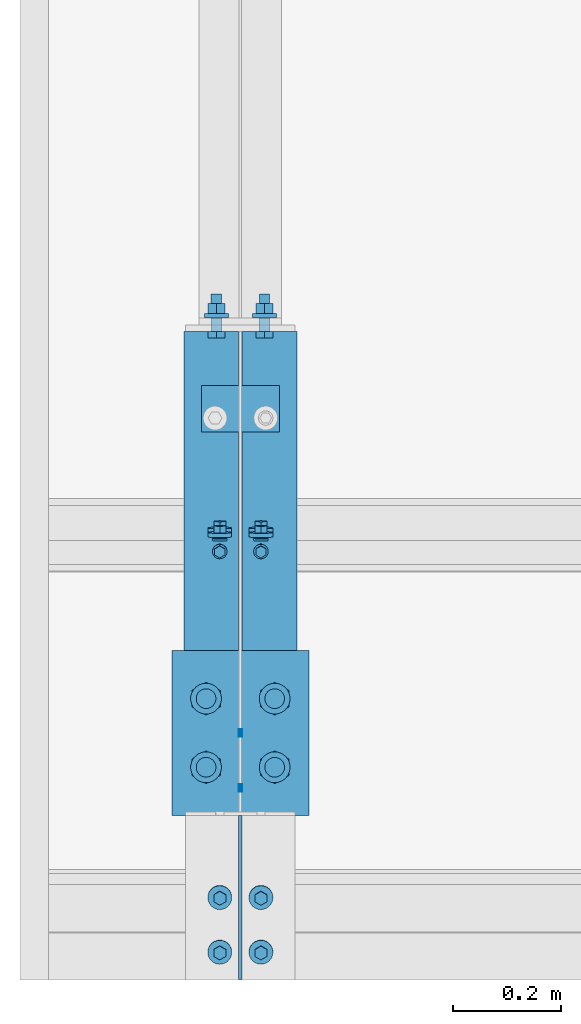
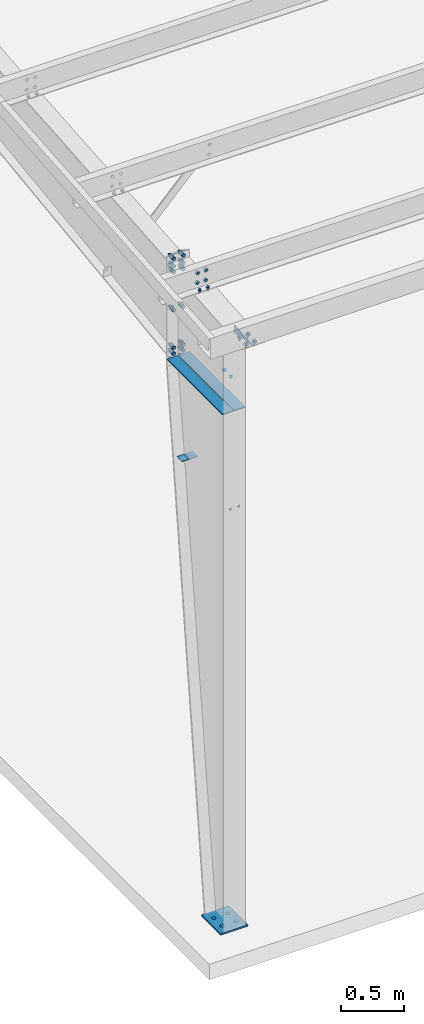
# One storey, part 61 of 185: 10 mechanical fasteners, 6 discrete accessories, 2 elements without a shape of their own.
"""IFC2X3 building model written with IfcOpenShell, lengths in millimetres."""

import ifcopenshell
import ifcopenshell.guid

model = None  # the IFC model being written
_history = None  # IfcOwnerHistory: only IFC2X3 demands one
_inside = {}  # id of a spatial element -> (the spatial element, [elements in it])
_under = {}  # id of a project, library or spatial element -> (it, [spatial elements below it])
_declared = {}  # id of a project -> (the project, [libraries it declares])
_typed = {}  # id of a type object -> (the type object, [elements of that type])
_made_of = {}  # id of a material, layer set ... -> (it, [elements and type objects made of it])


def new_model(schema):
    """Start an empty IFC model of exactly this schema.

    Asked for "IFC4X3", IfcOpenShell would pick the latest addendum, in which some entities
    have other attributes; the version numbers below select the first issue.
    IFC2X3 requires an IfcOwnerHistory on every rooted entity: one is made here for all.
    """
    global model, _history
    if schema == "IFC4X3":
        model = ifcopenshell.file(schema_version=(4, 3, 0, 0))
    else:
        model = ifcopenshell.file(schema=schema)
    _inside.clear()
    _under.clear()
    _declared.clear()
    _typed.clear()
    _made_of.clear()
    _history = None
    if model.schema == "IFC2X3":
        org = make("IfcOrganization", Name="unknown")
        user = make(
            "IfcPersonAndOrganization",
            ThePerson=make("IfcPerson", FamilyName="unknown"),
            TheOrganization=org,
        )
        app = make(
            "IfcApplication",
            ApplicationDeveloper=org,
            Version="unknown",
            ApplicationFullName="unknown",
            ApplicationIdentifier="unknown",
        )
        _history = make(
            "IfcOwnerHistory",
            OwningUser=user,
            OwningApplication=app,
            ChangeAction="ADDED",
            CreationDate=0,
        )
    return model


def make(cls, **values):
    """One entity of the class cls with the attributes given. An attribute that is None is left unset."""
    return model.create_entity(
        cls, **{name: value for name, value in values.items() if value is not None}
    )


def rooted(cls, **values):
    """An entity with a GlobalId (a new one), such as an element, a storey or a relation."""
    return make(cls, GlobalId=ifcopenshell.guid.new(), OwnerHistory=_history, **values)


def si_unit(unit_type, name, prefix=None):
    """IfcSIUnit, for example si_unit("LENGTHUNIT", "METRE", prefix="MILLI")."""
    return make("IfcSIUnit", UnitType=unit_type, Prefix=prefix, Name=name)


def assignment(units):
    """IfcUnitAssignment: the units of a project."""
    return None if units is None else make("IfcUnitAssignment", Units=units)


def point(xyz):
    """IfcCartesianPoint."""
    return None if xyz is None else make("IfcCartesianPoint", Coordinates=xyz)


def direction(xyz):
    """IfcDirection."""
    return None if xyz is None else make("IfcDirection", DirectionRatios=xyz)


def frame(location, z_axis=None, x_axis=None):
    """IfcAxis2Placement3D, a coordinate frame: its origin and axes. An axis left out is left unset."""
    return make(
        "IfcAxis2Placement3D",
        Location=point(location),
        Axis=direction(z_axis),
        RefDirection=direction(x_axis),
    )


def frame_2d(location, x_axis=None):
    """IfcAxis2Placement2D, a coordinate frame in the plane: its origin and x axis."""
    return make(
        "IfcAxis2Placement2D", Location=point(location), RefDirection=direction(x_axis)
    )


def origin_with_axes():
    """The frame at (0, 0, 0) with the z axis (0, 0, 1) and the x axis (1, 0, 0) written out."""
    return frame((0.0, 0.0, 0.0), z_axis=(0.0, 0.0, 1.0), x_axis=(1.0, 0.0, 0.0))


def origin_2d_with_axis():
    """The frame at (0, 0) in the plane with the x axis (1, 0) written out."""
    return frame_2d((0.0, 0.0), x_axis=(1.0, 0.0))


def place(relative_to, where):
    """IfcLocalPlacement: puts the frame where relative to a parent placement (None: the world)."""
    return make(
        "IfcLocalPlacement", PlacementRelTo=relative_to, RelativePlacement=where
    )


def context(
    kind, dimensions, precision=None, world=None, true_north=None, identifier=None
):
    """IfcGeometricRepresentationContext, for example the 3D "Model" context."""
    return make(
        "IfcGeometricRepresentationContext",
        ContextIdentifier=identifier,
        ContextType=kind,
        CoordinateSpaceDimension=dimensions,
        Precision=precision,
        WorldCoordinateSystem=world,
        TrueNorth=true_north,
    )


def subcontext(parent, identifier, kind, view, scale=None):
    """IfcGeometricRepresentationSubContext, for example "Body" below "Model"."""
    return make(
        "IfcGeometricRepresentationSubContext",
        ContextIdentifier=identifier,
        ContextType=kind,
        ParentContext=parent,
        TargetScale=scale,
        TargetView=view,
    )


def project(units=None, contexts=None):
    """IfcProject with its units and contexts."""
    return rooted(
        "IfcProject",
        Name="project",
        RepresentationContexts=contexts,
        UnitsInContext=assignment(units),
    )


def spatial(cls, under=None, at=None, **own):
    """A site, building, storey or space (cls), placed at a placement, below another one or the project."""
    s = rooted(cls, ObjectPlacement=at, **own)
    if under is not None:
        _under.setdefault(under.id(), (under, []))[1].append(s)
    return s


def polyline(points):
    """IfcPolyline through the points."""
    return make("IfcPolyline", Points=[point(p) for p in points])


def profile(cls, at=None, kind="AREA", **sizes):
    """A parametric profile (cls). Its sizes go by their IFC names, for example OverallWidth=200.0."""
    return make(cls, ProfileType=kind, Position=at, **sizes)


def rectangle(**sizes):
    """IfcRectangleProfileDef."""
    return profile("IfcRectangleProfileDef", **sizes)


def circle(**sizes):
    """IfcCircleProfileDef."""
    return profile("IfcCircleProfileDef", **sizes)


def outline(outer, holes=None, kind="AREA"):
    """IfcArbitraryClosedProfileDef: a profile drawn as a closed curve; with holes, ...WithVoids."""
    if holes is None:
        return make("IfcArbitraryClosedProfileDef", ProfileType=kind, OuterCurve=outer)
    return make(
        "IfcArbitraryProfileDefWithVoids",
        ProfileType=kind,
        OuterCurve=outer,
        InnerCurves=holes,
    )


def extrude(swept, where, along, depth):
    """IfcExtrudedAreaSolid: the profile swept, set in the frame where, extruded along a direction by depth."""
    return make(
        "IfcExtrudedAreaSolid",
        SweptArea=swept,
        Position=where,
        ExtrudedDirection=direction(along),
        Depth=depth,
    )


def shape(context_of_items, identifier, shape_type, items):
    """IfcShapeRepresentation: the items that make up one representation, for example the "Body"."""
    return make(
        "IfcShapeRepresentation",
        ContextOfItems=context_of_items,
        RepresentationIdentifier=identifier,
        RepresentationType=shape_type,
        Items=items,
    )


def source(mapping_origin, context_of_items, identifier, shape_type, items):
    """IfcRepresentationMap: a shape defined once, which mapped items show again and again."""
    return make(
        "IfcRepresentationMap",
        MappingOrigin=mapping_origin,
        MappedRepresentation=shape(context_of_items, identifier, shape_type, items),
    )


def transform(
    local_origin,
    x_axis=None,
    y_axis=None,
    z_axis=None,
    scale=None,
    scale2=None,
    scale3=None,
    uniform=True,
):
    """IfcCartesianTransformationOperator3D, or its non-uniform kind. x_axis, y_axis, z_axis: its Axis1, 2, 3."""
    if uniform:
        return make(
            "IfcCartesianTransformationOperator3D",
            Axis1=direction(x_axis),
            Axis2=direction(y_axis),
            LocalOrigin=point(local_origin),
            Scale=scale,
            Axis3=direction(z_axis),
        )
    return make(
        "IfcCartesianTransformationOperator3DnonUniform",
        Axis1=direction(x_axis),
        Axis2=direction(y_axis),
        LocalOrigin=point(local_origin),
        Scale=scale,
        Axis3=direction(z_axis),
        Scale2=scale2,
        Scale3=scale3,
    )


def mapped(mapping_source, mapping_target):
    """IfcMappedItem: shows the shape of a source again, moved by a transform."""
    return make(
        "IfcMappedItem", MappingSource=mapping_source, MappingTarget=mapping_target
    )


def material(Name=None, Category=None):
    """IfcMaterial."""
    return make("IfcMaterial", Name=Name, Category=Category)


def made_of(thing, what):
    """Note that an element or type object is made of a material, layer set ...; save() writes the relation."""
    if what is not None:
        _made_of.setdefault(what.id(), (what, []))[1].append(thing)
    return thing


def type_object(cls, material=None, **own):
    """A type object (cls), such as IfcWallType, which elements share."""
    return made_of(rooted(cls, **own), material)


def element(
    cls,
    number,
    at=None,
    inside=None,
    cuts=None,
    type_object=None,
    material=None,
    context=None,
    identifier="Body",
    shape_type=None,
    held_by="IfcProductDefinitionShape",
    body=None,
    shapes=None,
    **own,
):
    """One element of the class cls, such as IfcWall. Its Tag is "e" and its number.

    at: its placement. inside: the storey or other place that contains it. cuts: it is an
    opening in that element (IfcRelVoidsElement). A single representation is given by context,
    identifier, shape_type and body (its items); several are given by shapes. held_by: the class
    of the entity that holds the representations. save() writes the other relations.
    """
    e = rooted(cls, Tag="e%d" % number, ObjectPlacement=at, **own)
    if body is not None:
        shapes = [shape(context, identifier, shape_type, body)]
    if shapes is not None:
        e.Representation = make(held_by, Representations=shapes)
    if inside is not None:
        _inside.setdefault(inside.id(), (inside, []))[1].append(e)
    if cuts is not None:
        rooted(
            "IfcRelVoidsElement", RelatingBuildingElement=cuts, RelatedOpeningElement=e
        )
    if type_object is not None:
        _typed.setdefault(type_object.id(), (type_object, []))[1].append(e)
    return made_of(e, material)


def aggregate(whole, parts):
    """IfcRelAggregates: a whole, such as a stair, and the parts it consists of."""
    return rooted("IfcRelAggregates", RelatingObject=whole, RelatedObjects=parts)


def save(model, path):
    """Write the relations noted so far, then the file.

    IfcRelAggregates (storeys below a building ...), IfcRelContainedInSpatialStructure (elements
    in a storey), IfcRelDefinesByType, IfcRelAssociatesMaterial and IfcRelDeclares: one each for
    every whole, place, type object, material and project.
    """
    for whole, parts in _under.values():
        aggregate(whole, parts)
    for where, things in _inside.values():
        rooted(
            "IfcRelContainedInSpatialStructure",
            RelatedElements=things,
            RelatingStructure=where,
        )
    for kind, things in _typed.values():
        rooted("IfcRelDefinesByType", RelatedObjects=things, RelatingType=kind)
    for what, things in _made_of.values():
        rooted("IfcRelAssociatesMaterial", RelatedObjects=things, RelatingMaterial=what)
    for by, libraries in _declared.values():
        rooted("IfcRelDeclares", RelatingContext=by, RelatedDefinitions=libraries)
    model.write(path)


model = new_model("IFC2X3")

# Units and contexts
model_context = context("Model", 3, precision=1e-05, world=origin_with_axes())
body_context = subcontext(model_context, "Body", "Model", "MODEL_VIEW")
ifc_project = project(units=[si_unit("LENGTHUNIT", "METRE", prefix="MILLI"), si_unit("AREAUNIT", "SQUARE_METRE"), si_unit("VOLUMEUNIT", "CUBIC_METRE"), si_unit("MASSUNIT", "GRAM", prefix="KILO"), si_unit("TIMEUNIT", "SECOND"), si_unit("PLANEANGLEUNIT", "RADIAN"), si_unit("SOLIDANGLEUNIT", "STERADIAN"), si_unit("THERMODYNAMICTEMPERATUREUNIT", "DEGREE_CELSIUS"), si_unit("LUMINOUSINTENSITYUNIT", "LUMEN")], contexts=[model_context])

# Site, building, storey
site_placement = place(None, origin_with_axes())
site = spatial("IfcSite", under=ifc_project, at=site_placement, Name="Undefined", CompositionType="ELEMENT")
building_placement = place(site_placement, origin_with_axes())
building = spatial("IfcBuilding", under=site, at=building_placement, Name="Undefined", CompositionType="ELEMENT")
storey_placement = place(building_placement, origin_with_axes())
storey = spatial("IfcBuildingStorey", under=building, at=storey_placement, Name="Undefined", CompositionType="ELEMENT", Elevation=0.0)

# Assembly, discrete accessories
assembly_1_placement = place(storey_placement, origin_with_axes())
assembly_1 = element("IfcElementAssembly", 1, at=assembly_1_placement, inside=storey, Name="Steel Assembly", AssemblyPlace="NOTDEFINED", PredefinedType="RIGID_FRAME")
ifc_material_1 = material(Name="STEEL/55")
discrete_accessory_type_1 = type_object("IfcDiscreteAccessoryType", Name="Stiff")
discrete_accessory_1_placement = place(assembly_1_placement, frame((460.375000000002, 311.150000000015, 5064.52862492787), z_axis=(-1.0, 0.0, 0.0), x_axis=(0.0, 1.0, 0.0)))
discrete_accessory_1 = element("IfcDiscreteAccessory", 2, at=discrete_accessory_1_placement, type_object=discrete_accessory_type_1, material=ifc_material_1, Name="Stiff", ObjectType="FL3/8\"X4\"", context=body_context, shape_type="SweptSolid", body=[
    extrude(rectangle(XDim=9.525, YDim=101.6, at=origin_2d_with_axis()), frame((889.0, 0.0, 0.0), z_axis=(-1.0, 0.0, 0.0), x_axis=(0.0, -1.0, 0.0)), (0.0, 0.0, 1.0), 889.0),
])
discrete_accessory_2_placement = place(assembly_1_placement, frame((352.425000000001, 311.150000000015, 5064.52862492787), z_axis=(-1.0, 0.0, 0.0), x_axis=(0.0, 1.0, 0.0)))
discrete_accessory_2 = element("IfcDiscreteAccessory", 3, at=discrete_accessory_2_placement, type_object=discrete_accessory_type_1, material=ifc_material_1, Name="Stiff", ObjectType="FL3/8\"X4\"", context=body_context, shape_type="SweptSolid", body=[
    extrude(rectangle(XDim=9.525, YDim=101.6, at=origin_2d_with_axis()), frame((889.0, 0.0, 0.0), z_axis=(-1.0, 0.0, 0.0), x_axis=(0.0, -1.0, 0.0)), (0.0, 0.0, 1.0), 889.0),
])

# Assembly, mechanical fasteners
assembly_2_placement = place(storey_placement, origin_with_axes())
assembly_2 = element("IfcElementAssembly", 4, at=assembly_2_placement, inside=storey, Name="Steel Assembly", AssemblyPlace="NOTDEFINED", PredefinedType="RIGID_FRAME")
ifc_material_2 = material(Name="Undefined")
discrete_accessory_type_2 = type_object("IfcDiscreteAccessoryType", Name="Bolt assembly")
shared_shape_1 = source(origin_with_axes(), body_context, "Body", "SweptSolid", [
    extrude(circle(Radius=7.14374971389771, at=origin_2d_with_axis()), frame((0.0, -1.59000001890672, 0.0), z_axis=(0.0, 1.0, 0.0), x_axis=(1.0, 0.0, 0.0)), (0.0, 0.0, 1.0), 3.3),
    extrude(circle(Radius=13.4937496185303, at=origin_2d_with_axis()), frame((0.0, -5.5587500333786, 0.0), z_axis=(0.0, 1.0, 0.0), x_axis=(1.0, 0.0, 0.0)), (0.0, 0.0, 1.0), 4.0),
    extrude(circle(Radius=22.2250003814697, at=origin_2d_with_axis()), frame((0.0, 1.5900000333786, 0.0), z_axis=(0.0, 1.0, 0.0), x_axis=(1.0, 0.0, 0.0)), (0.0, 0.0, 1.0), 7.9),
    extrude(outline(polyline([(12.8316099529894, 0.0), (6.4158049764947, 11.1125001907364), (-6.4158049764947, 11.1125001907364), (-12.8316099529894, 0.0), (-6.4158049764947, -11.1125001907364), (6.4158049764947, -11.1125001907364), (12.8316099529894, 0.0)])), frame((0.0, 9.5275000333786, 0.0), z_axis=(0.0, 1.0, 0.0), x_axis=(1.0, 0.0, 0.0)), (0.0, 0.0, 1.0), 12.3),
])
mechanical_fastener_1_placement = place(assembly_2_placement, frame((444.500000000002, 818.86177929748, 6113.26239802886), z_axis=(1.0, 0.0, 0.0), x_axis=(0.0, 0.0830454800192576, -0.996545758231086)))
mechanical_fastener_1 = element("IfcMechanicalFastener", 5, at=mechanical_fastener_1_placement, type_object=discrete_accessory_type_2, material=ifc_material_2, Name="Bolt assembly", NominalDiameter=12.6999998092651, NominalLength=38.0999984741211, context=body_context, shape_type="MappedRepresentation", body=[
    mapped(shared_shape_1, transform((0.0, 0.0, 0.0))),
    mapped(shared_shape_1, transform((101.599998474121, 0.0, 0.0))),
])
mechanical_fastener_2_placement = place(assembly_2_placement, frame((368.300000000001, 818.86177929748, 6113.26239802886), z_axis=(1.0, 0.0, 0.0), x_axis=(0.0, 0.0830454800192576, -0.996545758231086)))
mechanical_fastener_2 = element("IfcMechanicalFastener", 6, at=mechanical_fastener_2_placement, type_object=discrete_accessory_type_2, material=ifc_material_2, Name="Bolt assembly", NominalDiameter=12.6999998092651, NominalLength=38.0999984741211, context=body_context, shape_type="MappedRepresentation", body=[
    mapped(shared_shape_1, transform((0.0, 0.0, 0.0))),
    mapped(shared_shape_1, transform((101.599998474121, 0.0, 0.0))),
])

# Mechanical fastener
shared_shape_2 = source(origin_with_axes(), body_context, "Body", "SweptSolid", [
    extrude(circle(Radius=7.14374971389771, at=origin_2d_with_axis()), frame((0.0, 0.0, 0.0), z_axis=(0.0, 1.0, 0.0), x_axis=(1.0, 0.0, 0.0)), (0.0, 0.0, 1.0), 6.5),
])
mechanical_fastener_3_placement = place(assembly_1_placement, frame((403.225000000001, 406.400000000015, 5372.09499893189), z_axis=(0.0, 1.0, 0.0), x_axis=(0.0, 0.0, 1.0)))
mechanical_fastener_3 = element("IfcMechanicalFastener", 7, at=mechanical_fastener_3_placement, type_object=discrete_accessory_type_2, material=ifc_material_2, Name="Bolt assembly", NominalDiameter=12.6999998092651, NominalLength=38.0999984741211, context=body_context, shape_type="MappedRepresentation", body=[
    mapped(shared_shape_2, transform((0.0, 0.0, -50.7999992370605))),
    mapped(shared_shape_2, transform((0.0, 0.0, 50.7999992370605))),
])

# Discrete accessory
discrete_accessory_type_3 = type_object("IfcDiscreteAccessoryType", Name="Base Plate")
discrete_accessory_3_placement = place(assembly_1_placement, frame((406.400000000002, 304.800000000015, 7.93749999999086), z_axis=(1.0, 0.0, 0.0), x_axis=(0.0, 1.0, 0.0)))
discrete_accessory_3 = element("IfcDiscreteAccessory", 8, at=discrete_accessory_3_placement, type_object=discrete_accessory_type_3, material=ifc_material_1, Name="Base Plate", ObjectType="FL5/8\"X10\"", context=body_context, shape_type="SweptSolid", body=[
    extrude(rectangle(XDim=15.875, YDim=254.0, at=origin_2d_with_axis()), frame((304.856675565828, 0.0, 0.0), z_axis=(-1.0, 0.0, 0.0), x_axis=(0.0, -1.0, 0.0)), (0.0, 0.0, 1.0), 304.9),
])

discrete_accessory_type_4 = type_object("IfcDiscreteAccessoryType", Name="FLANGE BRACE FLIP")
discrete_accessory_4_placement = place(assembly_1_placement, frame((404.018750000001, 1057.60629748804, 4166.94511424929), z_axis=(0.0, 1.0, 0.0), x_axis=(-1.0, 0.0, 0.0)))
discrete_accessory_4 = element("IfcDiscreteAccessory", 9, at=discrete_accessory_4_placement, type_object=discrete_accessory_type_4, material=ifc_material_1, Name="FLANGE BRACE FLIP", ObjectType="PL1/8\"X2 3/4\"", context=body_context, shape_type="SweptSolid", body=[
    extrude(rectangle(XDim=3.4163, YDim=85.725, at=origin_2d_with_axis()), frame((69.8499999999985, 0.0, 0.0), z_axis=(-1.0, 0.0, 0.0), x_axis=(0.0, -1.0, 0.0)), (0.0, 0.0, 1.0), 69.8),
])

discrete_accessory_5_placement = place(assembly_1_placement, frame((408.781250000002, 1057.60629748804, 4166.94511424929), z_axis=(0.0, 1.0, 0.0), x_axis=(1.0, 0.0, 0.0)))
discrete_accessory_5 = element("IfcDiscreteAccessory", 10, at=discrete_accessory_5_placement, type_object=discrete_accessory_type_4, material=ifc_material_1, Name="FLANGE BRACE FLIP", ObjectType="PL1/8\"X2 3/4\"", context=body_context, shape_type="SweptSolid", body=[
    extrude(rectangle(XDim=3.4163, YDim=85.725, at=origin_2d_with_axis()), frame((69.8499999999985, 0.0, 0.0), z_axis=(-1.0, 0.0, 0.0), x_axis=(0.0, -1.0, 0.0)), (0.0, 0.0, 1.0), 69.8),
])

discrete_accessory_type_5 = type_object("IfcDiscreteAccessoryType", Name="Gusset")
discrete_accessory_6_placement = place(assembly_1_placement, frame((406.400000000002, 304.800000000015, 5911.12365466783), z_axis=(1.0, 0.0, 0.0), x_axis=(0.0, -0.996548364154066, -0.0830142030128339)))
discrete_accessory_6 = element("IfcDiscreteAccessory", 11, at=discrete_accessory_6_placement, type_object=discrete_accessory_type_5, material=ifc_material_1, Name="Gusset", ObjectType="1/4\"X2 15/16\"", context=body_context, shape_type="SweptSolid", body=[
    extrude(outline(polyline([(0.0, 0.0), (305.244781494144, -7.45785655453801e-11), (6.32568216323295, 75.9369888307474), (0.0, 0.0)])), frame((0.0, -9.09494701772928e-13, -3.2), z_axis=(0.0, 0.0, 1.0), x_axis=(1.0, 0.0, 0.0)), (0.0, 0.0, 1.0), 6.4),
])

# Mechanical fastener
shared_shape_3 = source(origin_with_axes(), body_context, "Body", "SweptSolid", [
    extrude(circle(Radius=10.3187494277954, at=origin_2d_with_axis()), frame((0.0, -0.1, 0.0), z_axis=(0.0, 1.0, 0.0), x_axis=(1.0, 0.0, 0.0)), (0.0, 0.0, 1.0), 12.8),
    extrude(circle(Radius=10.3187494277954, at=origin_2d_with_axis()), frame((0.0, -12.5999999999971, 0.0), z_axis=(0.0, 1.0, 0.0), x_axis=(1.0, 0.0, 0.0)), (0.0, 0.0, 1.0), 12.7),
    extrude(outline(polyline([(18.3308710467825, 0.0), (9.16543552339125, 15.8750000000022), (-9.16543552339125, 15.8750000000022), (-18.3308710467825, 0.0), (-9.16543552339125, -15.8750000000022), (9.16543552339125, -15.8750000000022), (18.3308710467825, 0.0)])), frame((0.0, -24.6062499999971, 0.0), z_axis=(0.0, 1.0, 0.0), x_axis=(1.0, 0.0, 0.0)), (0.0, 0.0, 1.0), 11.9),
    extrude(circle(Radius=9.52499961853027, at=origin_2d_with_axis()), frame((0.0, -12.6999999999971, 0.0), z_axis=(0.0, 1.0, 0.0), x_axis=(1.0, 0.0, 0.0)), (0.0, 0.0, 1.0), 69.8),
    extrude(circle(Radius=22.2250003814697, at=origin_2d_with_axis()), frame((0.0, 12.6999999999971, 0.0), z_axis=(0.0, 1.0, 0.0), x_axis=(1.0, 0.0, 0.0)), (0.0, 0.0, 1.0), 7.9),
    extrude(outline(polyline([(18.3308710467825, 0.0), (9.16543552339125, 15.8750000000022), (-9.16543552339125, 15.8750000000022), (-18.3308710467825, 0.0), (-9.16543552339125, -15.8750000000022), (9.16543552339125, -15.8750000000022), (18.3308710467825, 0.0)])), frame((0.0, 20.6374999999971, 0.0), z_axis=(0.0, 1.0, 0.0), x_axis=(1.0, 0.0, 0.0)), (0.0, 0.0, 1.0), 19.0),
])
mechanical_fastener_4_placement = place(assembly_1_placement, frame((406.400000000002, 1212.85000000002, 5527.94898109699), z_axis=(1.0, 0.0, 0.0), x_axis=(0.0, 0.0, -1.0)))
mechanical_fastener_4 = element("IfcMechanicalFastener", 12, at=mechanical_fastener_4_placement, type_object=discrete_accessory_type_2, material=ifc_material_2, Name="Bolt assembly", NominalDiameter=19.0499992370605, NominalLength=69.8499984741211, context=body_context, shape_type="MappedRepresentation", body=[
    mapped(shared_shape_3, transform((0.0, 0.0, -44.4500007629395))),
    mapped(shared_shape_3, transform((0.0, 0.0, 44.4500007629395))),
])

mechanical_fastener_5_placement = place(assembly_1_placement, frame((406.400000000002, 1212.85000000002, 5026.29898109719), z_axis=(-1.0, 0.0, 0.0), x_axis=(0.0, 0.0, 1.0)))
mechanical_fastener_5 = element("IfcMechanicalFastener", 13, at=mechanical_fastener_5_placement, type_object=discrete_accessory_type_2, material=ifc_material_2, Name="Bolt assembly", NominalDiameter=19.0499992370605, NominalLength=69.8499984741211, context=body_context, shape_type="MappedRepresentation", body=[
    mapped(shared_shape_3, transform((0.0, 0.0, -44.4500007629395))),
    mapped(shared_shape_3, transform((76.1999969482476, 0.0, -44.4500007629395))),
    mapped(shared_shape_3, transform((133.350006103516, 0.0, -44.4500007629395))),
    mapped(shared_shape_3, transform((0.0, 0.0, 44.4500007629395))),
    mapped(shared_shape_3, transform((76.1999969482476, 0.0, 44.4500007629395))),
    mapped(shared_shape_3, transform((133.350006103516, 0.0, 44.4500007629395))),
])

mechanical_fastener_6_placement = place(assembly_1_placement, frame((406.400000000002, 1212.85000000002, 6029.59898109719), z_axis=(1.0, 0.0, 0.0), x_axis=(0.0, 0.0, -1.0)))
mechanical_fastener_6 = element("IfcMechanicalFastener", 14, at=mechanical_fastener_6_placement, type_object=discrete_accessory_type_2, material=ifc_material_2, Name="Bolt assembly", NominalDiameter=19.0499992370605, NominalLength=69.8499984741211, context=body_context, shape_type="MappedRepresentation", body=[
    mapped(shared_shape_3, transform((0.0, 0.0, -44.4500007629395))),
    mapped(shared_shape_3, transform((76.1999969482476, 0.0, -44.4500007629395))),
    mapped(shared_shape_3, transform((133.350006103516, 0.0, -44.4500007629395))),
    mapped(shared_shape_3, transform((0.0, 0.0, 44.4500007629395))),
    mapped(shared_shape_3, transform((76.1999969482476, 0.0, 44.4500007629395))),
    mapped(shared_shape_3, transform((133.350006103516, 0.0, 44.4500007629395))),
])

shared_shape_4 = source(origin_with_axes(), body_context, "Body", "SweptSolid", [
    extrude(circle(Radius=7.14374971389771, at=origin_2d_with_axis()), frame((0.0, -0.1, 0.0), z_axis=(0.0, 1.0, 0.0), x_axis=(1.0, 0.0, 0.0)), (0.0, 0.0, 1.0), 6.4),
    extrude(circle(Radius=7.14374971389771, at=origin_2d_with_axis()), frame((0.0, -3.08000006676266, 0.0), z_axis=(0.0, 1.0, 0.0), x_axis=(1.0, 0.0, 0.0)), (0.0, 0.0, 1.0), 3.2),
    extrude(outline(polyline([(10.9985221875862, 0.0), (5.4992610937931, 9.52499961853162), (-5.4992610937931, 9.52499961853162), (-10.9985221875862, 0.0), (-5.4992610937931, -9.52499961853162), (5.4992610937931, -9.52499961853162), (10.9985221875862, 0.0)])), frame((0.0, -16.6737496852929, 0.0), z_axis=(0.0, 1.0, 0.0), x_axis=(1.0, 0.0, 0.0)), (0.0, 0.0, 1.0), 9.5),
    extrude(circle(Radius=6.34999990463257, at=origin_2d_with_axis()), frame((0.0, -7.14875006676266, 0.0), z_axis=(0.0, 1.0, 0.0), x_axis=(1.0, 0.0, 0.0)), (0.0, 0.0, 1.0), 38.1),
    extrude(circle(Radius=13.4937496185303, at=origin_2d_with_axis()), frame((0.0, -7.14875006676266, 0.0), z_axis=(0.0, 1.0, 0.0), x_axis=(1.0, 0.0, 0.0)), (0.0, 0.0, 1.0), 4.0),
    extrude(outline(polyline([(12.8316099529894, 0.0), (6.4158049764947, 11.1125001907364), (-6.4158049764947, 11.1125001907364), (-12.8316099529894, 0.0), (-6.4158049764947, -11.1125001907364), (6.4158049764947, -11.1125001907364), (12.8316099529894, 0.0)])), frame((0.0, 6.35000000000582, 0.0), z_axis=(0.0, 1.0, 0.0), x_axis=(1.0, 0.0, 0.0)), (0.0, 0.0, 1.0), 12.3),
])
mechanical_fastener_7_placement = place(assembly_2_placement, frame((406.400000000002, 793.549517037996, 5958.22479168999), z_axis=(1.0, 0.0, 0.0), x_axis=(0.0, -0.996545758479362, -0.0830454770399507)))
mechanical_fastener_7 = element("IfcMechanicalFastener", 15, at=mechanical_fastener_7_placement, type_object=discrete_accessory_type_2, material=ifc_material_2, Name="Bolt assembly", NominalDiameter=12.6999998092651, NominalLength=38.0999984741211, context=body_context, shape_type="MappedRepresentation", body=[
    mapped(shared_shape_4, transform((0.0, 0.0, -38.0999984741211))),
    mapped(shared_shape_4, transform((0.0, 0.0, 38.0999984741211))),
])

aggregate(assembly_2, [mechanical_fastener_7, mechanical_fastener_1, mechanical_fastener_2])

shared_shape_5 = source(origin_with_axes(), body_context, "Body", "SweptSolid", [
    extrude(circle(Radius=7.14499998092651, at=origin_2d_with_axis()), frame((0.0, -1.48750355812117, 0.0), z_axis=(0.0, 1.0, 0.0), x_axis=(1.0, 0.0, 0.0)), (0.0, 0.0, 1.0), 1.6),
    extrude(circle(Radius=7.14499998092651, at=origin_2d_with_axis()), frame((0.0, -0.1, 0.0), z_axis=(0.0, 1.0, 0.0), x_axis=(1.0, 0.0, 0.0)), (0.0, 0.0, 1.0), 6.5),
    extrude(outline(polyline([(12.8316099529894, 0.0), (6.4158049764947, 11.1125001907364), (-6.4158049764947, 11.1125001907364), (-12.8316099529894, 0.0), (-6.4158049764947, -11.1125001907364), (6.4158049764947, -11.1125001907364), (12.8316099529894, 0.0)])), frame((0.0, -9.52499961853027, 0.0), z_axis=(0.0, 1.0, 0.0), x_axis=(1.0, 0.0, 0.0)), (0.0, 0.0, 1.0), 7.9),
    extrude(circle(Radius=6.34999990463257, at=origin_2d_with_axis()), frame((0.0, -1.58749999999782, 0.0), z_axis=(0.0, 1.0, 0.0), x_axis=(1.0, 0.0, 0.0)), (0.0, 0.0, 1.0), 50.8),
    extrude(circle(Radius=22.2250003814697, at=origin_2d_with_axis()), frame((0.0, 6.35000000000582, 0.0), z_axis=(0.0, 1.0, 0.0), x_axis=(1.0, 0.0, 0.0)), (0.0, 0.0, 1.0), 7.9),
    extrude(outline(polyline([(12.8316099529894, 0.0), (6.4158049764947, 11.1125001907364), (-6.4158049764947, 11.1125001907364), (-12.8316099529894, 0.0), (-6.4158049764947, -11.1125001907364), (6.4158049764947, -11.1125001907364), (12.8316099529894, 0.0)])), frame((0.0, 14.2875000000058, 0.0), z_axis=(0.0, 1.0, 0.0), x_axis=(1.0, 0.0, 0.0)), (0.0, 0.0, 1.0), 12.3),
])
mechanical_fastener_8_placement = place(assembly_1_placement, frame((368.300000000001, 50.6245237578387, 5896.31437545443), z_axis=(-1.0, 0.0, 0.0), x_axis=(0.0, 0.996545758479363, 0.0830454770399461)))
mechanical_fastener_8 = element("IfcMechanicalFastener", 16, at=mechanical_fastener_8_placement, type_object=discrete_accessory_type_2, material=ifc_material_2, Name="Bolt assembly", NominalDiameter=12.6999998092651, NominalLength=50.7999992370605, context=body_context, shape_type="MappedRepresentation", body=[
    mapped(shared_shape_5, transform((0.0, 0.0, 0.0))),
    mapped(shared_shape_5, transform((101.599998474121, 0.0, 0.0))),
])

shared_shape_6 = source(origin_with_axes(), body_context, "Body", "SweptSolid", [
    extrude(circle(Radius=7.14374971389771, at=origin_2d_with_axis()), frame((0.0, -1.09230397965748, 0.0), z_axis=(0.0, 1.0, 0.0), x_axis=(1.0, 0.0, 0.0)), (0.0, 0.0, 1.0), 1.6),
    extrude(circle(Radius=7.14374971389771, at=origin_2d_with_axis()), frame((0.0, 0.295247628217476, 0.0), z_axis=(0.0, 1.0, 0.0), x_axis=(1.0, 0.0, 0.0)), (0.0, 0.0, 1.0), 6.5),
    extrude(outline(polyline([(12.8316099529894, 0.0), (6.4158049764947, 11.1125001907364), (-6.4158049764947, 11.1125001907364), (-12.8316099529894, 0.0), (-6.4158049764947, -11.1125001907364), (6.4158049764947, -11.1125001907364), (12.8316099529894, 0.0)])), frame((0.0, -9.12980397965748, 0.0), z_axis=(0.0, 1.0, 0.0), x_axis=(1.0, 0.0, 0.0)), (0.0, 0.0, 1.0), 7.9),
    extrude(circle(Radius=6.34999990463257, at=origin_2d_with_axis()), frame((0.0, -1.19230397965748, 0.0), z_axis=(0.0, 1.0, 0.0), x_axis=(1.0, 0.0, 0.0)), (0.0, 0.0, 1.0), 50.8),
    extrude(circle(Radius=22.2250003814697, at=origin_2d_with_axis()), frame((0.0, 6.74543982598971, 0.0), z_axis=(0.0, 1.0, 0.0), x_axis=(1.0, 0.0, 0.0)), (0.0, 0.0, 1.0), 7.9),
    extrude(outline(polyline([(12.8316099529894, 0.0), (6.4158049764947, 11.1125001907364), (-6.4158049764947, 11.1125001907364), (-12.8316099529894, 0.0), (-6.4158049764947, -11.1125001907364), (6.4158049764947, -11.1125001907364), (12.8316099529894, 0.0)])), frame((0.0, 14.6829398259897, 0.0), z_axis=(0.0, 1.0, 0.0), x_axis=(1.0, 0.0, 0.0)), (0.0, 0.0, 1.0), 12.3),
])
mechanical_fastener_9_placement = place(assembly_1_placement, frame((444.500000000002, 50.5901689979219, 5896.70811819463), z_axis=(-1.0, 0.0, 0.0), x_axis=(0.0, 0.995869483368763, 0.0907963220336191)))
mechanical_fastener_9 = element("IfcMechanicalFastener", 17, at=mechanical_fastener_9_placement, type_object=discrete_accessory_type_2, material=ifc_material_2, Name="Bolt assembly", NominalDiameter=12.6999998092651, NominalLength=50.7999992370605, context=body_context, shape_type="MappedRepresentation", body=[
    mapped(shared_shape_6, transform((0.0, 0.0, 0.0))),
    mapped(shared_shape_6, transform((101.599998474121, 0.0, 0.0))),
])

ifc_material_3 = material(Name="7990")
shared_shape_7 = source(origin_with_axes(), body_context, "Body", "SweptSolid", [
    extrude(circle(Radius=18.2562503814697, at=origin_2d_with_axis()), frame((0.0, -15.8750000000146, 0.0), z_axis=(0.0, 1.0, 0.0), x_axis=(1.0, 0.0, 0.0)), (0.0, 0.0, 1.0), 16.0),
    extrude(circle(Radius=28.575, at=origin_2d_with_axis()), frame((0.0, 0.0, 0.0), z_axis=(0.0, 1.0, 0.0), x_axis=(1.0, 0.0, 0.0)), (0.0, 0.0, 1.0), 10.5),
    extrude(outline(polyline([(30.4292459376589, 0.0), (15.2146229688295, 26.3525000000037), (-15.2146229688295, 26.3525000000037), (-30.4292459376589, 0.0), (-15.2146229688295, -26.3525000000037), (15.2146229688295, -26.3525000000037), (30.4292459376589, 0.0)])), frame((0.0, 10.4775, 0.0), z_axis=(0.0, 1.0, 0.0), x_axis=(1.0, 0.0, 0.0)), (0.0, 0.0, 1.0), 21.0),
])
mechanical_fastener_10_placement = place(assembly_1_placement, frame((406.400000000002, 393.700001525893, -9.14202047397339e-12), z_axis=(-1.0, 0.0, 0.0), x_axis=(0.0, 1.0, 0.0)))
mechanical_fastener_10 = element("IfcMechanicalFastener", 18, at=mechanical_fastener_10_placement, type_object=discrete_accessory_type_2, material=ifc_material_3, Name="Bolt assembly", NominalDiameter=31.75, NominalLength=15.875, context=body_context, shape_type="MappedRepresentation", body=[
    mapped(shared_shape_7, transform((0.0, 0.0, -63.5))),
    mapped(shared_shape_7, transform((127.0, 0.0, -63.5))),
    mapped(shared_shape_7, transform((0.0, 0.0, 63.5))),
    mapped(shared_shape_7, transform((127.0, 0.0, 63.5))),
])

aggregate(assembly_1, [discrete_accessory_4, discrete_accessory_5, discrete_accessory_6, mechanical_fastener_4, mechanical_fastener_3, mechanical_fastener_9, mechanical_fastener_8, mechanical_fastener_5, mechanical_fastener_6, mechanical_fastener_10, discrete_accessory_1, discrete_accessory_2, discrete_accessory_3])

save(model, "model.ifc")
